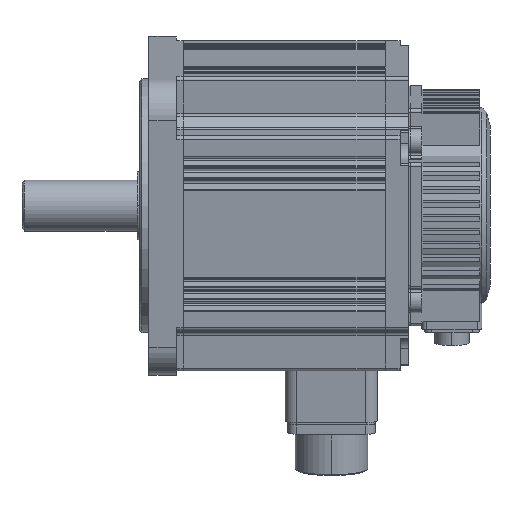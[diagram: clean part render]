
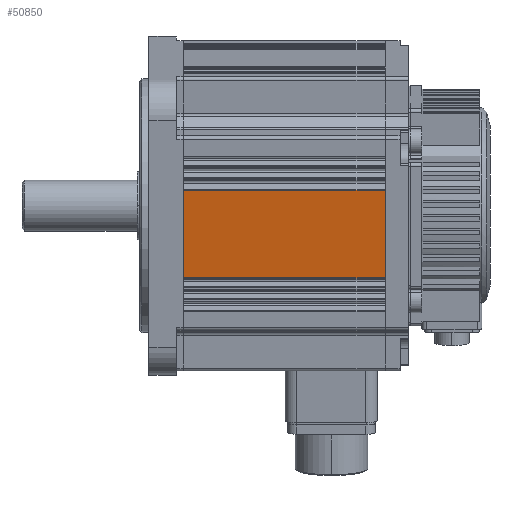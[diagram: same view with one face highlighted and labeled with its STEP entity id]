
A CAD part, front view. The second image highlights one B-rep face of the part: STEP entity #50850.
In plain terms, the highlighted planar face has unit normal (0, -0.982, -0.187).
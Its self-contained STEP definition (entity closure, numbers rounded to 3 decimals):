
#1157 = PLANE ( 'NONE',  #40579 ) ;
#2238 = DIRECTION ( 'NONE',  ( 0., 0.187, -0.982 ) ) ;
#2271 = LINE ( 'NONE', #40933, #25224 ) ;
#6931 = DIRECTION ( 'NONE',  ( 1., 0., 0. ) ) ;
#7507 = ORIENTED_EDGE ( 'NONE', *, *, #13853, .F. ) ;
#8245 = CARTESIAN_POINT ( 'NONE',  ( 90.147, -55.409, -31.138 ) ) ;
#8895 = CARTESIAN_POINT ( 'NONE',  ( 90.147, -62.64, 6.792 ) ) ;
#10393 = FACE_OUTER_BOUND ( 'NONE', #37361, .T. ) ;
#11116 = VERTEX_POINT ( 'NONE', #20970 ) ;
#11193 = CARTESIAN_POINT ( 'NONE',  ( 2.647, -62.64, 6.792 ) ) ;
#13853 = EDGE_CURVE ( 'NONE', #11116, #34534, #2271, .T. ) ;
#15579 = VERTEX_POINT ( 'NONE', #52354 ) ;
#15841 = VERTEX_POINT ( 'NONE', #8245 ) ;
#20970 = CARTESIAN_POINT ( 'NONE',  ( 2.647, -55.409, -31.138 ) ) ;
#22495 = ORIENTED_EDGE ( 'NONE', *, *, #42977, .T. ) ;
#25224 = VECTOR ( 'NONE', #45148, 1000. ) ;
#25358 = LINE ( 'NONE', #32398, #35158 ) ;
#29427 = LINE ( 'NONE', #38675, #32037 ) ;
#31986 = ORIENTED_EDGE ( 'NONE', *, *, #43807, .F. ) ;
#32037 = VECTOR ( 'NONE', #46717, 1000. ) ;
#32398 = CARTESIAN_POINT ( 'NONE',  ( 46.397, -62.64, 6.792 ) ) ;
#33284 = VECTOR ( 'NONE', #34341, 1000. ) ;
#34183 = EDGE_CURVE ( 'NONE', #15841, #11116, #29427, .T. ) ;
#34341 = DIRECTION ( 'NONE',  ( 0., -0.187, 0.982 ) ) ;
#34534 = VERTEX_POINT ( 'NONE', #11193 ) ;
#35158 = VECTOR ( 'NONE', #6931, 1000. ) ;
#37361 = EDGE_LOOP ( 'NONE', ( #38848, #22495, #31986, #7507 ) ) ;
#38675 = CARTESIAN_POINT ( 'NONE',  ( 46.397, -55.409, -31.138 ) ) ;
#38848 = ORIENTED_EDGE ( 'NONE', *, *, #34183, .F. ) ;
#39403 = CARTESIAN_POINT ( 'NONE',  ( 90.147, -62.64, 6.792 ) ) ;
#40579 = AXIS2_PLACEMENT_3D ( 'NONE', #39403, #43778, #2238 ) ;
#40933 = CARTESIAN_POINT ( 'NONE',  ( 2.647, -46.852, -76.023 ) ) ;
#42977 = EDGE_CURVE ( 'NONE', #15841, #15579, #44345, .T. ) ;
#43778 = DIRECTION ( 'NONE',  ( 0., 0.982, 0.187 ) ) ;
#43807 = EDGE_CURVE ( 'NONE', #34534, #15579, #25358, .T. ) ;
#44345 = LINE ( 'NONE', #8895, #33284 ) ;
#45148 = DIRECTION ( 'NONE',  ( 0., -0.187, 0.982 ) ) ;
#46717 = DIRECTION ( 'NONE',  ( -1., 0., 0. ) ) ;
#50850 = ADVANCED_FACE ( 'NONE', ( #10393 ), #1157, .F. ) ;
#52354 = CARTESIAN_POINT ( 'NONE',  ( 90.147, -62.64, 6.792 ) ) ;
